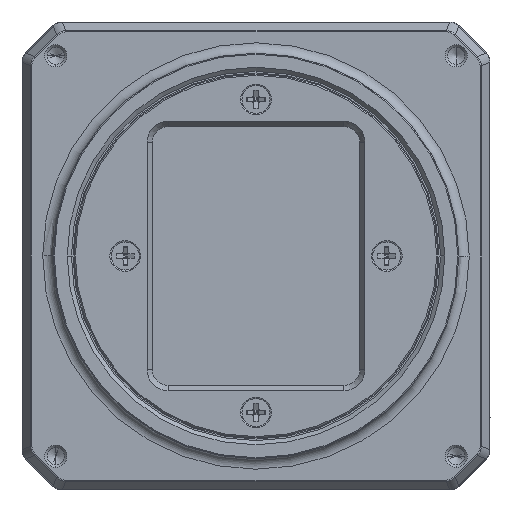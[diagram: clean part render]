
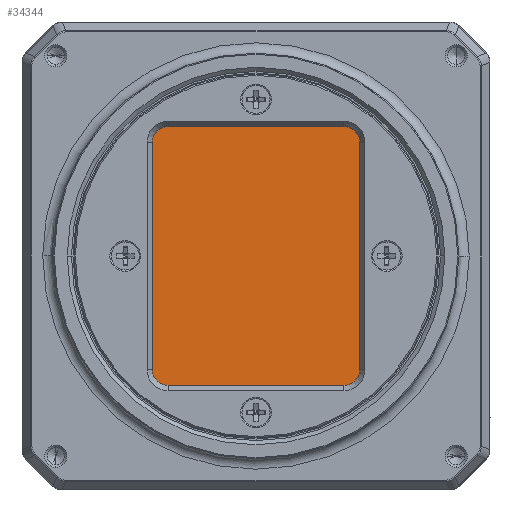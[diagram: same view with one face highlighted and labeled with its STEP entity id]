
A CAD part, left-side view. The second image highlights one B-rep face of the part: STEP entity #34344.
In plain terms, the highlighted planar face has unit normal (-1, 0, 0).
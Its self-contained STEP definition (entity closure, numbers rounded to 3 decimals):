
#5752=CARTESIAN_POINT('',(-2.5,16.9,21.85));
#5753=DIRECTION('',(1.,0.,0.));
#5754=DIRECTION('',(0.,1.,0.));
#5755=AXIS2_PLACEMENT_3D('',#5752,#5753,#5754);
#5757=DIRECTION('',(0.,-1.,0.));
#5758=VECTOR('',#5757,33.8);
#5759=CARTESIAN_POINT('',(-2.5,16.9,25.142));
#5760=LINE('',#5759,#5758);
#5761=CARTESIAN_POINT('',(-2.5,-16.9,21.85));
#5762=DIRECTION('',(1.,0.,0.));
#5763=DIRECTION('',(0.,0.,1.));
#5764=AXIS2_PLACEMENT_3D('',#5761,#5762,#5763);
#5766=DIRECTION('',(0.,0.,1.));
#5767=VECTOR('',#5766,43.7);
#5768=CARTESIAN_POINT('',(-2.5,-20.192,-21.85));
#5769=LINE('',#5768,#5767);
#5770=CARTESIAN_POINT('',(-2.5,-16.9,-21.85));
#5771=DIRECTION('',(1.,0.,0.));
#5772=DIRECTION('',(0.,-1.,0.));
#5773=AXIS2_PLACEMENT_3D('',#5770,#5771,#5772);
#5775=DIRECTION('',(0.,-1.,0.));
#5776=VECTOR('',#5775,33.8);
#5777=CARTESIAN_POINT('',(-2.5,16.9,-25.142));
#5778=LINE('',#5777,#5776);
#5779=CARTESIAN_POINT('',(-2.5,16.9,-21.85));
#5780=DIRECTION('',(1.,0.,0.));
#5781=DIRECTION('',(0.,0.,-1.));
#5782=AXIS2_PLACEMENT_3D('',#5779,#5780,#5781);
#5784=DIRECTION('',(0.,0.,1.));
#5785=VECTOR('',#5784,43.7);
#5786=CARTESIAN_POINT('',(-2.5,20.192,-21.85));
#5787=LINE('',#5786,#5785);
#24013=CARTESIAN_POINT('',(-2.5,20.192,21.85));
#24014=CARTESIAN_POINT('',(-2.5,16.9,25.142));
#24015=VERTEX_POINT('',#24013);
#24016=VERTEX_POINT('',#24014);
#24017=CARTESIAN_POINT('',(-2.5,20.192,-21.85));
#24018=VERTEX_POINT('',#24017);
#24019=CARTESIAN_POINT('',(-2.5,16.9,-25.142));
#24020=VERTEX_POINT('',#24019);
#24021=CARTESIAN_POINT('',(-2.5,-16.9,-25.142));
#24022=VERTEX_POINT('',#24021);
#24023=CARTESIAN_POINT('',(-2.5,-20.192,-21.85));
#24024=VERTEX_POINT('',#24023);
#24025=CARTESIAN_POINT('',(-2.5,-20.192,21.85));
#24026=VERTEX_POINT('',#24025);
#24027=CARTESIAN_POINT('',(-2.5,-16.9,25.142));
#24028=VERTEX_POINT('',#24027);
#34322=CARTESIAN_POINT('',(-2.5,0.,0.));
#34323=DIRECTION('',(1.,0.,0.));
#34324=DIRECTION('',(0.,0.,1.));
#34325=AXIS2_PLACEMENT_3D('',#34322,#34323,#34324);
#34326=PLANE('',#34325);
#34328=ORIENTED_EDGE('',*,*,#34327,.T.);
#34329=ORIENTED_EDGE('',*,*,#34312,.T.);
#34331=ORIENTED_EDGE('',*,*,#34330,.T.);
#34333=ORIENTED_EDGE('',*,*,#34332,.F.);
#34335=ORIENTED_EDGE('',*,*,#34334,.T.);
#34337=ORIENTED_EDGE('',*,*,#34336,.F.);
#34339=ORIENTED_EDGE('',*,*,#34338,.T.);
#34341=ORIENTED_EDGE('',*,*,#34340,.T.);
#34342=EDGE_LOOP('',(#34328,#34329,#34331,#34333,#34335,#34337,#34339,#34341));
#34343=FACE_OUTER_BOUND('',#34342,.F.);
#34344=ADVANCED_FACE('',(#34343),#34326,.F.);
#5756=CIRCLE('',#5755,3.292);
#5765=CIRCLE('',#5764,3.292);
#5774=CIRCLE('',#5773,3.292);
#5783=CIRCLE('',#5782,3.292);
#34312=EDGE_CURVE('',#24016,#24028,#5760,.T.);
#34327=EDGE_CURVE('',#24015,#24016,#5756,.T.);
#34330=EDGE_CURVE('',#24028,#24026,#5765,.T.);
#34332=EDGE_CURVE('',#24024,#24026,#5769,.T.);
#34334=EDGE_CURVE('',#24024,#24022,#5774,.T.);
#34336=EDGE_CURVE('',#24020,#24022,#5778,.T.);
#34338=EDGE_CURVE('',#24020,#24018,#5783,.T.);
#34340=EDGE_CURVE('',#24018,#24015,#5787,.T.);
